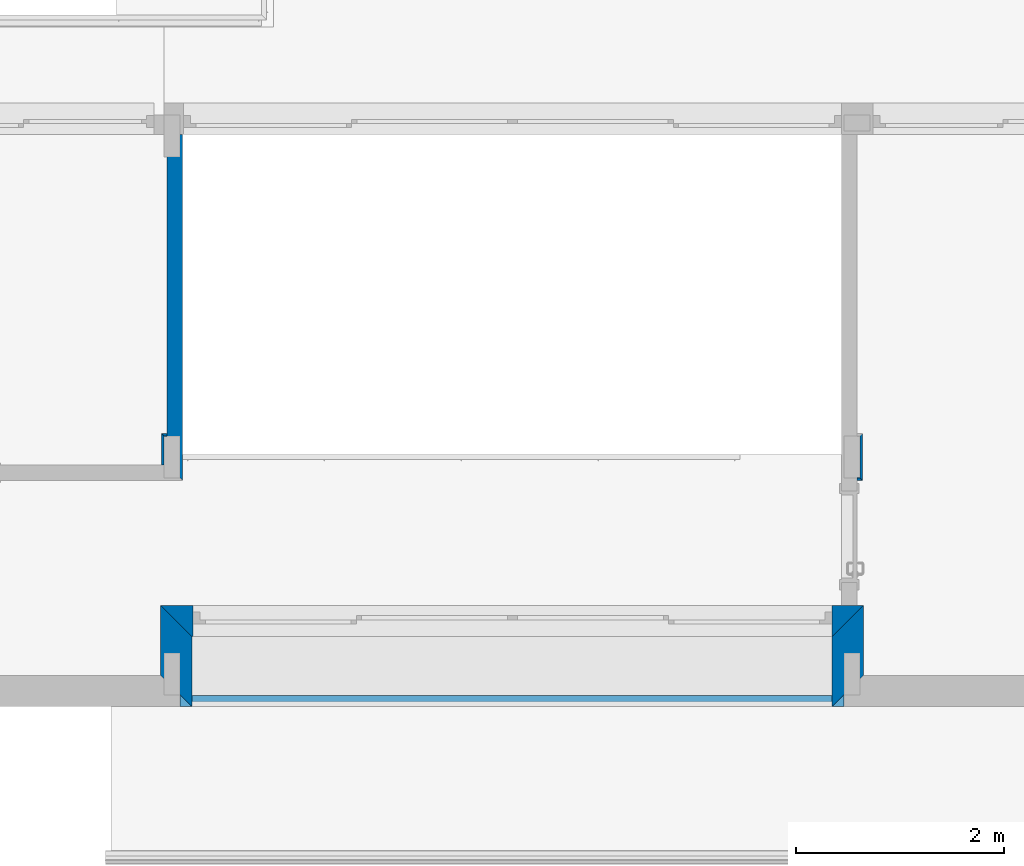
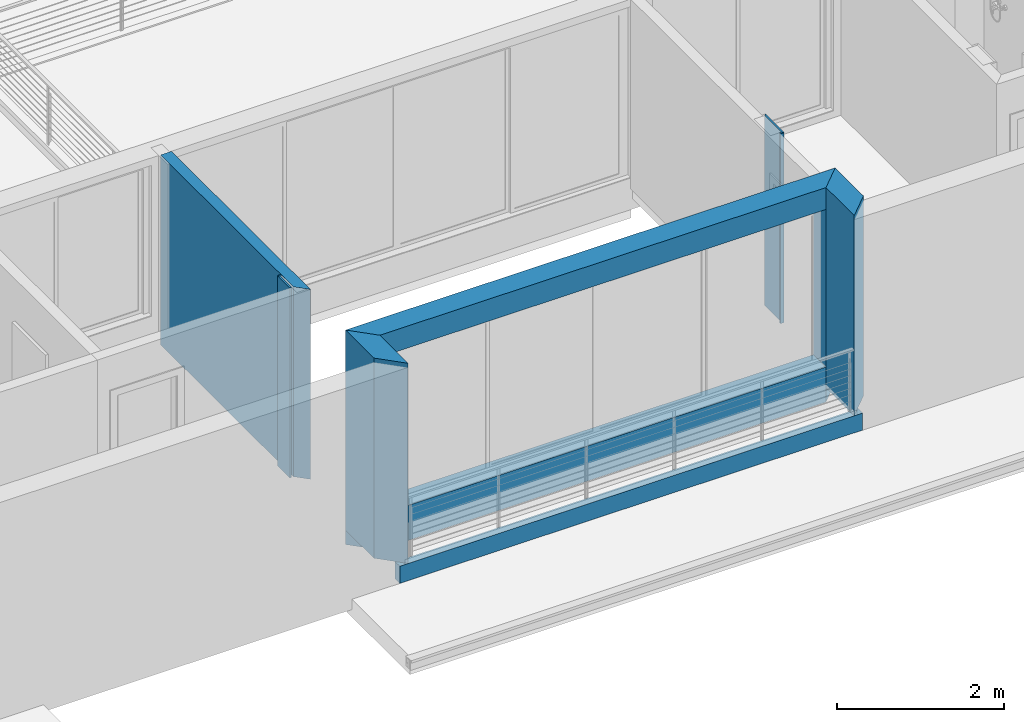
# One storey, part 7 of 24: 9 walls, 1 opening.
"""IFC2X3 building model written with IfcOpenShell, lengths in millimetres."""

from ifc_helpers import new_model, entity, si_unit, converted_unit, money_unit, direction, frame, origin_with_axes, origin_2d_with_axis, place, context, subcontext, project, spatial, polyline, rectangle, outline, extrude, material, layer, layer_set, layer_usage, type_object, element, save


model = new_model("IFC2X3")

# Units and contexts
model_context = context("Model", 3, precision=1e-05, world=origin_with_axes(), true_north=direction((0.0, 1.0)))
body_context = subcontext(model_context, "Body", "Model", "MODEL_VIEW")
ifc_project = project(units=[si_unit("LENGTHUNIT", "METRE", prefix="MILLI"), si_unit("AREAUNIT", "SQUARE_METRE"), si_unit("VOLUMEUNIT", "CUBIC_METRE"), converted_unit("PLANEANGLEUNIT", "DEGREE", entity("IfcPlaneAngleMeasure", 0.0174532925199), si_unit("PLANEANGLEUNIT", "RADIAN"), dimensions=[0, 0, 0, 0, 0, 0, 0]), si_unit("SOLIDANGLEUNIT", "STERADIAN"), money_unit("USD"), converted_unit("TIMEUNIT", "Year", entity("IfcTimeMeasure", 31556926.0), si_unit("TIMEUNIT", "SECOND"), dimensions=[0, 0, 0, 0, 0, 0, 0]), si_unit("MASSUNIT", "GRAM"), si_unit("THERMODYNAMICTEMPERATUREUNIT", "DEGREE_CELSIUS"), si_unit("LUMINOUSINTENSITYUNIT", "LUMEN")], contexts=[model_context])

# Site, building, storey
site_placement = place(None, origin_with_axes())
site = spatial("IfcSite", under=ifc_project, at=site_placement, Name="Grove Residential", CompositionType="ELEMENT")
building_placement = place(site_placement, origin_with_axes())
building = spatial("IfcBuilding", under=site, at=building_placement, Name="Building", CompositionType="ELEMENT")
storey_placement = place(building_placement, frame((0.0, 0.0, 3740.0), z_axis=(0.0, 0.0, 1.0), x_axis=(1.0, 0.0, 0.0)))
storey = spatial("IfcBuildingStorey", under=building, at=storey_placement, Name="First Floor", CompositionType="ELEMENT", Elevation=3740.0)

# Wall, opening
ifc_material_1 = material(Name="External Render")
ifc_layer_1 = layer(ifc_material_1, 20.0, ventilated="UNKNOWN")
ifc_material_2 = material(Name="Cement Board")
ifc_layer_2 = layer(ifc_material_2, 10.0, ventilated="UNKNOWN")
ifc_material_3 = material(Name="Air Space")
ifc_layer_3 = layer(ifc_material_3, 35.0, ventilated="UNKNOWN")
ifc_material_4 = material(Name="Insulation - Plastic Soft")
ifc_layer_4 = layer(ifc_material_4, 50.0, ventilated="UNKNOWN")
ifc_material_5 = material(Name="Concrete Block")
ifc_layer_5 = layer(ifc_material_5, 150.0, ventilated="UNKNOWN")
ifc_material_6 = material(Name="Air Space - Fixing Zone")
ifc_layer_6 = layer(ifc_material_6, 10.0, ventilated="UNKNOWN")
ifc_material_7 = material(Name="Gypsum Plasterboard")
ifc_layer_7 = layer(ifc_material_7, 12.5, ventilated="UNKNOWN")
ifc_layer_8 = layer(ifc_material_7, 12.5, ventilated="UNKNOWN")
ifc_layer_set_1 = layer_set([ifc_layer_1, ifc_layer_2, ifc_layer_3, ifc_layer_4, ifc_layer_5, ifc_layer_6, ifc_layer_7, ifc_layer_8], Name="EWF - 001")
ifc_layer_usage_1 = layer_usage(ifc_layer_set_1, "AXIS2", "POSITIVE", 0.0)
wall_type_1 = type_object("IfcWallType", Name="EWF - 001 300", PredefinedType="NOTDEFINED")
wall_1_placement = place(storey_placement, frame((714.999982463, 2024.99996722, -210.0), z_axis=(0.0, 0.0, 1.0), x_axis=(1.0, 0.0, 0.0)))
wall_1 = element("IfcWallStandardCase", 1, at=wall_1_placement, inside=storey, type_object=wall_type_1, material=ifc_layer_usage_1, Name="SW - 003", context=body_context, shape_type="SweptSolid", body=[
    extrude(outline(polyline([(115.0, 0.0), (6269.99997347, 0.0), (6569.99997347, 300.0), (-185.0, 300.0), (115.0, 0.0)])), origin_with_axes(), (0.0, 0.0, 1.0), 3130.0),
])
opening_placement = place(wall_1_placement, frame((3197.49998674, 0.0, 510.0), z_axis=(0.0, 0.0, 1.0), x_axis=(1.0, 0.0, 0.0)))
element("IfcOpeningElement", 2, at=opening_placement, cuts=wall_1, Name="D.12", context=body_context, shape_type="SweptSolid", body=[
    extrude(rectangle(XDim=6144.99997347, YDim=2300.0, at=origin_2d_with_axis()), frame((0.0, 120.0, 1150.0), z_axis=(0.0, -1.0, 0.0), x_axis=(-1.0, 0.0, 0.0)), (0.0, 0.0, -1.0), 480.0),
    extrude(rectangle(XDim=6144.99997347, YDim=2300.0, at=origin_2d_with_axis()), frame((0.0, 120.0, 1150.0), z_axis=(0.0, 1.0, 0.0), x_axis=(-1.0, 0.0, 0.0)), (0.0, 0.0, -1.0), 420.0),
])

# Walls
ifc_layer_9 = layer(ifc_material_7, 12.5, ventilated="UNKNOWN")
ifc_layer_10 = layer(ifc_material_7, 12.5, ventilated="UNKNOWN")
ifc_material_8 = material(Name="Air Space - Frame")
ifc_layer_11 = layer(ifc_material_8, 50.0, ventilated="UNKNOWN")
ifc_material_9 = material(Name="Insulation - Mineral Soft")
ifc_layer_12 = layer(ifc_material_9, 50.0, ventilated="UNKNOWN")
ifc_layer_13 = layer(ifc_material_7, 12.5, ventilated="UNKNOWN")
ifc_layer_14 = layer(ifc_material_7, 12.5, ventilated="UNKNOWN")
ifc_layer_set_2 = layer_set([ifc_layer_9, ifc_layer_10, ifc_layer_11, ifc_layer_12, ifc_layer_13, ifc_layer_14], Name="IWF-001")
ifc_layer_usage_2 = layer_usage(ifc_layer_set_2, "AXIS2", "POSITIVE", -150.0)
wall_type_2 = type_object("IfcWallType", Name="IWF-001 150", PredefinedType="NOTDEFINED")
wall_2_placement = place(storey_placement, frame((740.0, 7035.0, -60.0), z_axis=(0.0, 0.0, 1.0), x_axis=(0.0, -1.0, 0.0)))
element("IfcWallStandardCase", 3, at=wall_2_placement, inside=storey, type_object=wall_type_2, material=ifc_layer_usage_2, Name="SW - 001", context=body_context, shape_type="SweptSolid", body=[
    extrude(outline(polyline([(185.0, -150.0), (3360.00003278, -150.0), (3510.00003278, 0.0), (185.0, 0.0), (185.0, -150.0)])), origin_with_axes(), (0.0, 0.0, 1.0), 2770.0),
])
ifc_material_10 = material(Name="Timber - External Cladding")
ifc_layer_15 = layer(ifc_material_10, 40.0, ventilated="UNKNOWN")
ifc_layer_16 = layer(ifc_material_6, 25.0, ventilated="UNKNOWN")
ifc_layer_17 = layer(ifc_material_4, 50.0, ventilated="UNKNOWN")
ifc_layer_18 = layer(ifc_material_5, 150.0, ventilated="UNKNOWN")
ifc_layer_19 = layer(ifc_material_6, 10.0, ventilated="UNKNOWN")
ifc_layer_20 = layer(ifc_material_7, 12.5, ventilated="UNKNOWN")
ifc_layer_21 = layer(ifc_material_7, 12.5, ventilated="UNKNOWN")
ifc_layer_set_3 = layer_set([ifc_layer_15, ifc_layer_16, ifc_layer_17, ifc_layer_18, ifc_layer_19, ifc_layer_20, ifc_layer_21], Name="EWF - 002")
ifc_layer_usage_3 = layer_usage(ifc_layer_set_3, "AXIS2", "POSITIVE", -115.0)
wall_type_3 = type_object("IfcWallType", Name="EWF - 002 300", PredefinedType="NOTDEFINED")
wall_3_placement = place(storey_placement, frame((714.999982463, 1464.99992309, 0.0), z_axis=(0.0, 0.0, 1.0), x_axis=(0.0, 1.0, 0.0)))
element("IfcWallStandardCase", 4, at=wall_3_placement, inside=storey, type_object=wall_type_3, material=ifc_layer_usage_3, Name="SW - 003", context=body_context, shape_type="SweptSolid", body=[
    extrude(outline(polyline([(-115.0, -115.0), (560.000044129, -115.0), (860.000044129, 185.0), (185.0, 185.0), (-115.0, -115.0)])), origin_with_axes(), (0.0, 0.0, 1.0), 2920.0),
])
ifc_layer_usage_4 = layer_usage(ifc_layer_set_3, "AXIS2", "POSITIVE", -115.0)
wall_4_placement = place(storey_placement, frame((7099.99995594, 2024.99996722, 0.0), z_axis=(0.0, 0.0, 1.0), x_axis=(0.0, -1.0, 0.0)))
element("IfcWallStandardCase", 5, at=wall_4_placement, inside=storey, type_object=wall_type_3, material=ifc_layer_usage_4, Name="SW - 003", context=body_context, shape_type="SweptSolid", body=[
    extrude(outline(polyline([(0.0, -115.0), (675.000044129, -115.0), (375.000044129, 185.0), (-300.0, 185.0), (0.0, -115.0)])), origin_with_axes(), (0.0, 0.0, 1.0), 2920.0),
])
ifc_layer_22 = layer(ifc_material_10, 40.0, ventilated="UNKNOWN")
ifc_layer_23 = layer(ifc_material_6, 70.0, ventilated="UNKNOWN")
ifc_layer_set_4 = layer_set([ifc_layer_22, ifc_layer_23], Name="EWF - 007")
ifc_layer_usage_5 = layer_usage(ifc_layer_set_4, "AXIS2", "POSITIVE", -115.0)
wall_type_4 = type_object("IfcWallType", Name="EWF - 007 110", PredefinedType="NOTDEFINED")
wall_5_placement = place(storey_placement, frame((714.999982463, 1464.99992309, -250.0), z_axis=(0.0, 0.0, 1.0), x_axis=(1.0, 0.0, 0.0)))
element("IfcWallStandardCase", 6, at=wall_5_placement, inside=storey, type_object=wall_type_4, material=ifc_layer_usage_5, Name="SW - 002", context=body_context, shape_type="SweptSolid", body=[
    extrude(outline(polyline([(0.0, -115.0), (6384.99997347, -115.0), (6384.99997347, -5.0), (0.0, -5.0), (0.0, -115.0)])), origin_with_axes(), (0.0, 0.0, 1.0), 250.0),
])
ifc_layer_24 = layer(ifc_material_7, 12.5, ventilated="UNKNOWN")
ifc_layer_25 = layer(ifc_material_7, 12.5, ventilated="UNKNOWN")
ifc_layer_set_5 = layer_set([ifc_layer_24, ifc_layer_25], Name="IF-001")
ifc_layer_usage_6 = layer_usage(ifc_layer_set_5, "AXIS2", "POSITIVE", -25.0)
wall_type_5 = type_object("IfcWallType", Name="IF-001 25", PredefinedType="NOTDEFINED")
wall_6_placement = place(storey_placement, frame((740.0, 3949.99996722, -60.0), z_axis=(0.0, 0.0, 1.0), x_axis=(-1.0, 0.0, 0.0)))
element("IfcWallStandardCase", 7, at=wall_6_placement, inside=storey, type_object=wall_type_5, material=ifc_layer_usage_6, Name="SW - 001", context=body_context, shape_type="SweptSolid", body=[
    extrude(outline(polyline([(150.0, -25.0), (200.000017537, -25.0), (175.000017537, 0.0), (150.0, 0.0), (150.0, -25.0)])), origin_with_axes(), (0.0, 0.0, 1.0), 2770.0),
])
ifc_layer_usage_7 = layer_usage(ifc_layer_set_5, "AXIS2", "POSITIVE", -25.0)
wall_7_placement = place(storey_placement, frame((564.999982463, 3949.99996722, -60.0), z_axis=(0.0, 0.0, 1.0), x_axis=(0.0, -1.0, 0.0)))
element("IfcWallStandardCase", 8, at=wall_7_placement, inside=storey, type_object=wall_type_5, material=ifc_layer_usage_7, Name="SW - 002", context=body_context, shape_type="SweptSolid", body=[
    extrude(outline(polyline([(-25.0, -25.0), (275.0, -25.0), (275.0, 0.0), (0.0, 0.0), (-25.0, -25.0)])), origin_with_axes(), (0.0, 0.0, 1.0), 2770.0),
])
ifc_layer_usage_8 = layer_usage(ifc_layer_set_5, "AXIS2", "POSITIVE", -25.0)
wall_8_placement = place(storey_placement, frame((7150.0, 3549.99989619, -60.0), z_axis=(0.0, 0.0, 1.0), x_axis=(1.0, 7.10280343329e-07, 0.0)))
element("IfcWallStandardCase", 9, at=wall_8_placement, inside=storey, type_object=wall_type_5, material=ifc_layer_usage_8, Name="SW - 009", context=body_context, shape_type="SweptSolid", body=[
    extrude(outline(polyline([(74.999982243, -25.0), (124.999938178, -25.0), (99.9999559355, 0.0), (75.0, 0.0), (74.999982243, -25.0)])), origin_with_axes(), (0.0, 0.0, 1.0), 2770.0),
])
ifc_layer_usage_9 = layer_usage(ifc_layer_set_5, "AXIS2", "POSITIVE", -25.0)
wall_9_placement = place(storey_placement, frame((7249.99995594, 3549.99996722, -60.0), z_axis=(0.0, 0.0, 1.0), x_axis=(0.0, 1.0, 0.0)))
element("IfcWallStandardCase", 10, at=wall_9_placement, inside=storey, type_object=wall_type_5, material=ifc_layer_usage_9, Name="SW - 010", context=body_context, shape_type="SweptSolid", body=[
    extrude(outline(polyline([(-24.999982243, -25.0), (424.99996467, -25.0), (400.0, 0.0), (0.0, 0.0), (-24.999982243, -25.0)])), origin_with_axes(), (0.0, 0.0, 1.0), 2770.0),
])

save(model, "model.ifc")
